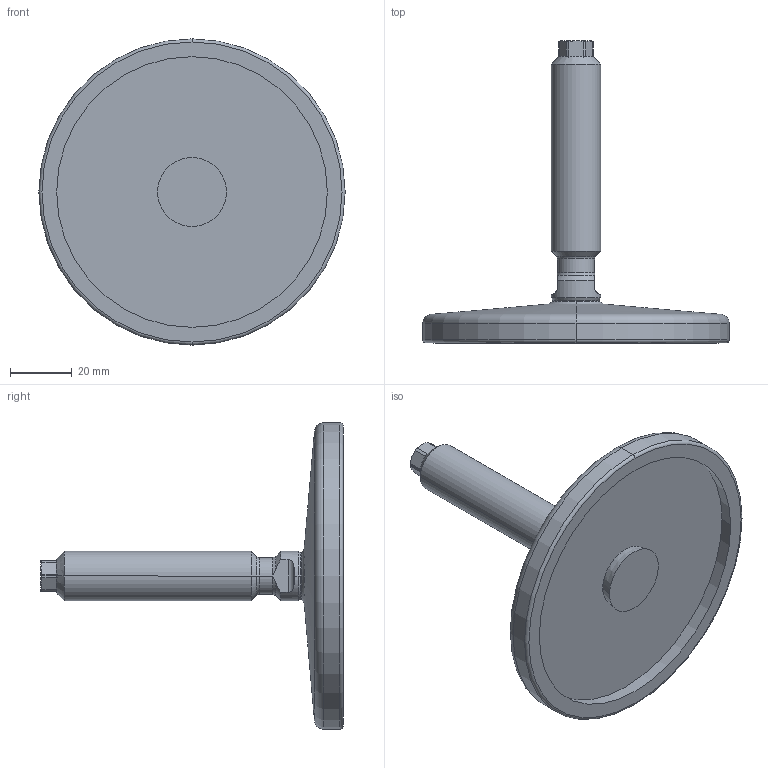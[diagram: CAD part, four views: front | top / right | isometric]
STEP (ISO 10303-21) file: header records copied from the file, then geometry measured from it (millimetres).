
FILE_DESCRIPTION (( 'STEP AP214' ), '1' );
FILE_NAME ('21-100-M16-75-D0-V.step', '2020-10-02T17:36:39', ( '' ), ( '' ), 'SwSTEP 2.0', 'SolidWorks 2019', '' );
FILE_SCHEMA (( 'AUTOMOTIVE_DESIGN' ));
Length unit declared in the file: millimetre
Products named in the file (3): WB21_Spindel_V^WB21_V_M16-75; WB21_Fußteller 21^WB21_V_D0-100-R10-B7 (M8 M10_M12_M16); 21-100-M16-75-D0-V
Assembly tree (2 placements, depth 2):
  21-100-M16-75-D0-V
    WB21_Fußteller 21^WB21_V_D0-100-R10-B7 (M8 M10_M12_M16)
    WB21_Spindel_V^WB21_V_M16-75
Bounding box: 99 x 97.64 x 99 mm (x, y, z)
Volume: 69355.9 mm3; surface area: 24272.9 mm2
Topology: 2 solids, 2 shells, 79 faces, 177 edges, 105 vertices
Faces by surface type: cylinder 23, cone 21, plane 21, torus 10, sphere 4
Entity records: 2438 total; most frequent: CARTESIAN_POINT 522, DIRECTION 406, ORIENTED_EDGE 354, EDGE_CURVE 177, AXIS2_PLACEMENT_3D 173, VERTEX_POINT 105, CIRCLE 89, EDGE_LOOP 82
